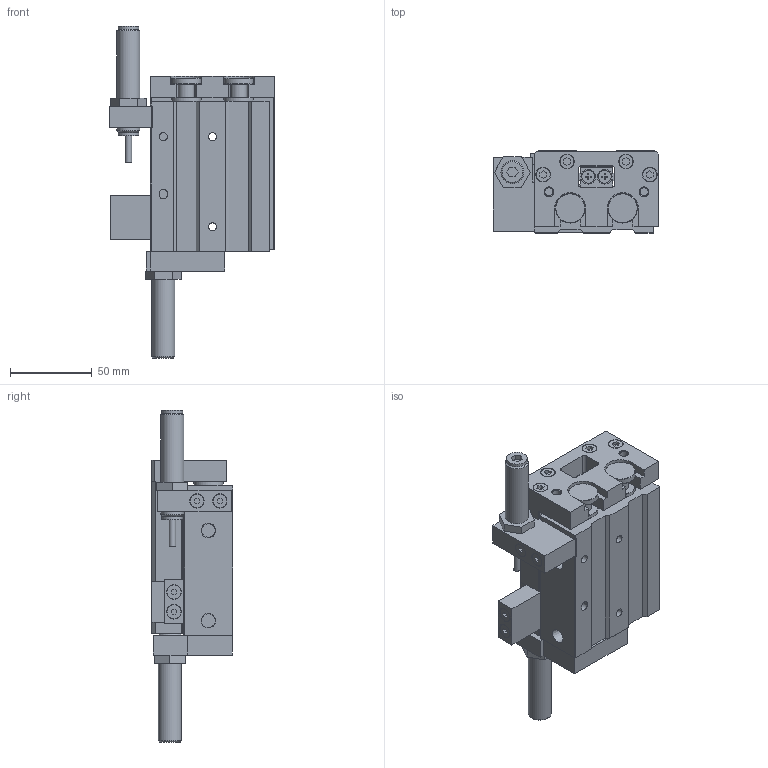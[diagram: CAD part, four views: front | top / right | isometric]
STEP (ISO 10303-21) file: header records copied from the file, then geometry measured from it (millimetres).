
FILE_DESCRIPTION( ( 'STEP AP214' ), '1' );
FILE_NAME( 'C:/Users/EMC02301/Desktop/ELS图纸/ELS20X40-S-B.stp', '2026-08-05T06:17:57', ( 'License CC BY-ND 4.0' ), ( 'CADENAS' ), ' ', 'PARTsolutions', ' ' );
FILE_SCHEMA( ( 'AUTOMOTIVE_DESIGN { 1 0 10303 214 1 1 1 1 }' ) );
Length unit declared in the file: millimetre
Products named in the file (6): ELS20X40-S-B(0)(); _ELS20X40-S-B(HX-07)(HX-07-1)(0-body); _ELS20X40-S-B(0-rod); _FJ-ELS20-B; _FJ-ELS20-B-(BS); _FJ-ELS20-B-(BF)
Assembly tree (5 placements, depth 2):
  ELS20X40-S-B(0)()
    _ELS20X40-S-B(HX-07)(HX-07-1)(0-body)
    _ELS20X40-S-B(0-rod)
    _FJ-ELS20-B
    _FJ-ELS20-B-(BS)
    _FJ-ELS20-B-(BF)
Bounding box: 101 x 50 x 202.5 mm (x, y, z)
Volume: 388601.9 mm3; surface area: 107377 mm2
Topology: 5 solids, 5 shells, 604 faces, 1458 edges, 957 vertices
Faces by surface type: plane 464, cylinder 110, cone 30
Full cylindrical faces by diameter (mm): 4 x2, 4.134 x10, 4.917 x8, 5 x2, 5.1 x2, 8 x12, 8.267 x2, 8.5 x4, 8.6 x2, 8.667 x2, 9 x18, 10 x6, 11 x4, 12 x1, 12.6 x2, 14 x4, 18 x6, 20 x4, 23 x2
Entity records: 21658 total; most frequent: CARTESIAN_POINT 2868, DIRECTION 2800, ORIENTED_EDGE 2636, EDGE_CURVE 1318, LINE 1056, VECTOR 1056, VERTEX_POINT 940, AXIS2_PLACEMENT_3D 872
